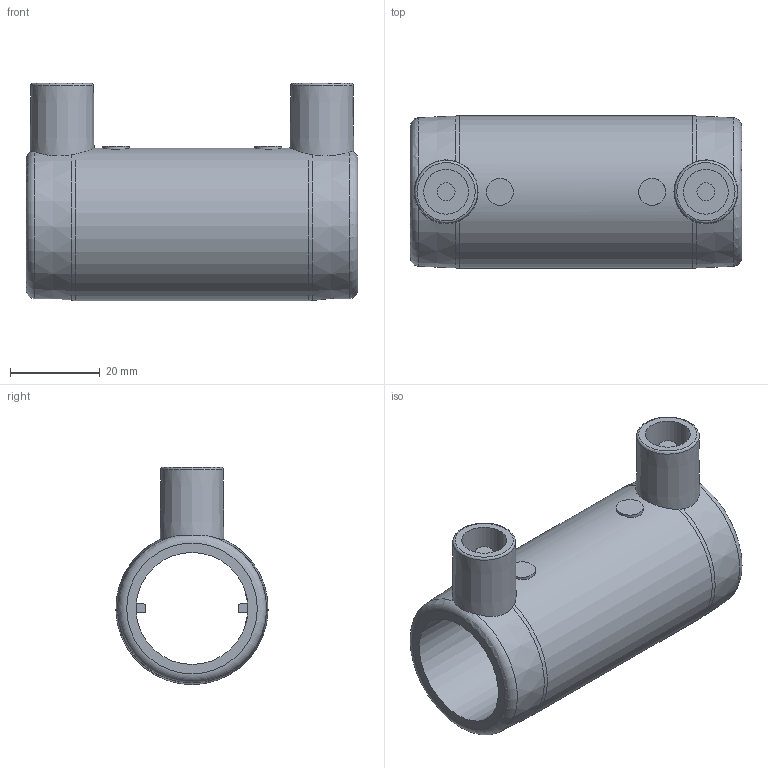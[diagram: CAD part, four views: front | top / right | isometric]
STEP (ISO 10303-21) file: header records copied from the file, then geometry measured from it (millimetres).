
FILE_DESCRIPTION(/* description */ ('Unknown'),/* implementation_level */ '2;1');
FILE_NAME(/* name */ 'MP025C',/* time_stamp */ '2021-02-10T15:03:58+01:00',/* author */ ('Unknown'),/* organization */ ('Unknown'),/* preprocessor_version */ 'ST-DEVELOPER v16.7',/* originating_system */ 'Solid Edge',/* authorisation */ 'Unknown');
FILE_SCHEMA (('AUTOMOTIVE_DESIGN {1 0 10303 214 3 1 1}'));
Length unit declared in the file: millimetre
Products named in the file (1): MP025C
Bounding box: 74 x 33.99 x 48.5 mm (x, y, z)
Volume: 33237.5 mm3; surface area: 16610.6 mm2
Topology: 1 solids, 1 shells, 42 faces, 94 edges, 62 vertices
Faces by surface type: plane 20, cylinder 12, torus 6, cone 4
Full cylindrical faces by diameter (mm): 4 x2, 6 x2, 10 x2, 25 x1, 34 x1
Entity records: 1132 total; most frequent: CARTESIAN_POINT 245, DIRECTION 182, ORIENTED_EDGE 148, AXIS2_PLACEMENT_3D 79, EDGE_CURVE 74, EDGE_LOOP 66, FACE_BOUND 66, VERTEX_POINT 56
